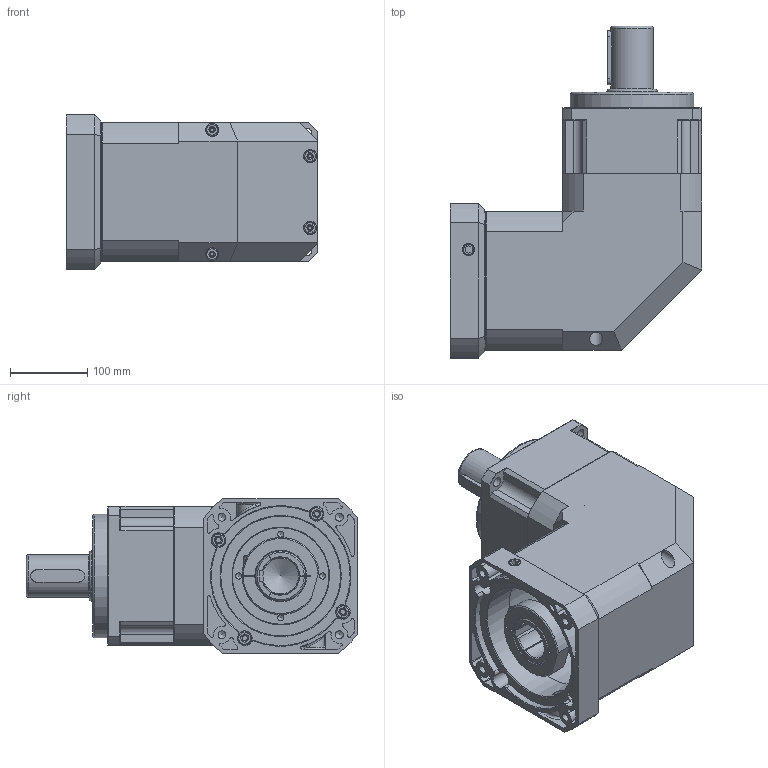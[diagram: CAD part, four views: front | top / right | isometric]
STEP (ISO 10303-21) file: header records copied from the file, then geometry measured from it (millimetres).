
FILE_DESCRIPTION((''),'2;1');
FILE_NAME('C:\Work\감속기 카다로그 도면\ATG Reducer(홈페이지)\PBL-H\STP\PBL180-H-1.stp','2014-05-27T14:54:37',('young'),(''),'Autodesk Inventor 2012','Autodesk Inventor 2012','');
FILE_SCHEMA(('AUTOMOTIVE_DESIGN { 1 0 10303 214 1 1 1 1 }'));
Length unit declared in the file: millimetre
Products named in the file (1): PBL180-H-1
Bounding box: 325 x 429.6 x 200 mm (x, y, z)
Volume: 7677316.6 mm3; surface area: 926175.6 mm2
Topology: 21 solids, 23 shells, 738 faces, 1755 edges, 1123 vertices
Faces by surface type: plane 355, cylinder 235, cone 116, torus 19, bspline 13
Full cylindrical faces by diameter (mm): 8 x4, 8.5 x5, 10 x5, 10.2 x8, 11 x1, 12 x4, 12.1 x1, 13 x12, 14 x1, 14.5 x4, 15.607 x2, 16 x5, 17 x4, 18 x4, 19 x4, 38 x1, 40 x2, 46 x1, 55 x1, 58 x1, 64.8 x1, 65 x2, 65.4 x1, 70 x1, 73 x1, 74.7 x1, 75 x1, 81 x1, 86 x1, 87 x1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
Entity records: 26427 total; most frequent: CARTESIAN_POINT 9922, DIRECTION 3463, ORIENTED_EDGE 3030, EDGE_CURVE 1515, AXIS2_PLACEMENT_3D 1383, VERTEX_POINT 1075, EDGE_LOOP 1034, FACE_OUTER_BOUND 738
